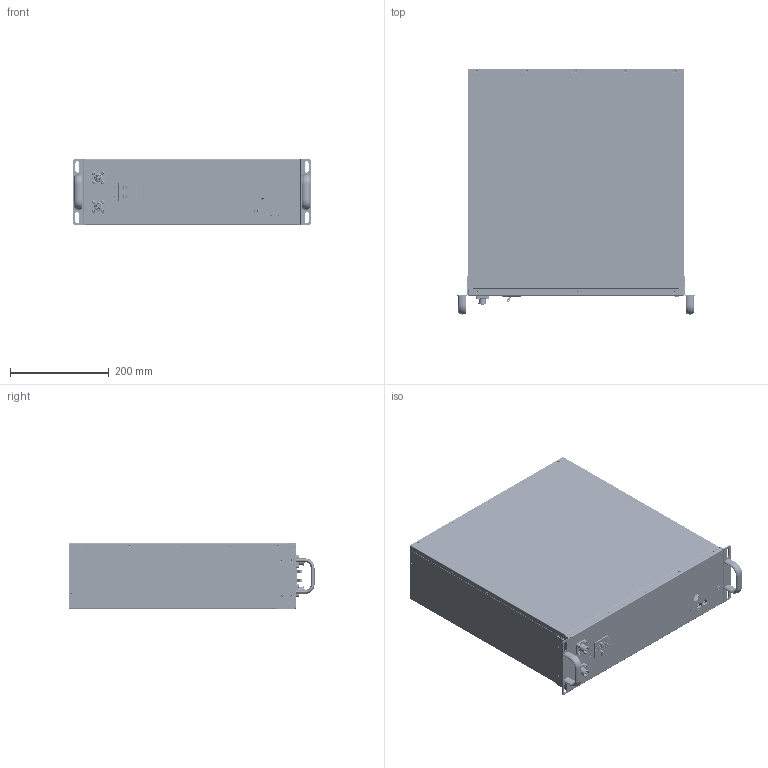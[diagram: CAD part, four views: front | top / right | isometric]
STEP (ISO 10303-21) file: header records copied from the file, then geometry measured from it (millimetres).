
FILE_DESCRIPTION((''),'2;1');
FILE_NAME('48-48-5120_ELEMENT_3U_BATTERY_N_ASM','2023-11-24T11:18:20',('Administrator'),(''),'CREO PARAMETRIC BY PTC INC, 2019224','CREO PARAMETRIC BY PTC INC, 2019224','');
FILE_SCHEMA(('AUTOMOTIVE_DESIGN { 1 0 10303 214 1 1 1 1 }'));
Products named in the file (73): XIANGTI_9_5; ZHIJIA-05_3_5; PEM_NUT_M4_1_5; ZHIJIA-01_ASM_3_ASM_5_ASM; ZHIJIA-06_3_5; ZHIJIA-02_ASM_3_ASM_5_ASM; DIBAN-01_4_5; PEM_NUT_M3_1_5; XIANGTI-00_ASM_8_ASM_5_ASM; MIANBAN_12_1_5; MIANBAN_12_2_5; MIANBAN_12_3_5; MIANBAN_12_4_5; MIANBAN_12_5_5; MIANBAN_12_6_5; MIANBAN_12_7_5; MIANBAN_12_8_5; MIANBAN_12_9_5; MIANBAN_12_10_5; MIANBAN_12_11_5; MIANBAN_12_12_5; MIANBAN_12_13_5; MIANBAN_12_14_5; MIANBAN_12_15_5; MIANBAN_12_16_5; MIANBAN_12_17_5; MIANBAN_12_ASM_5_ASM; ZHIJIA-07_7_5; MIANBAN-00_ASM_20_ASM_5_ASM; OPEN_CASCADE_STEP_TRANSLA-81901; OPEN_CASCADE_STEP_TRANSLA-95973; CON_USB_MINI_B_VERT_ASM_1_ASM_5_ASM; CN1_ASM_1_ASM_5_ASM; CON_RJ45_TH_TOP_ENTRY_NOSHIELD_; P4_ASM_1_ASM_5_ASM; P3_ASM_1_ASM_5_ASM; LIGHTPIPE-VLP-650-R_1_1_5; LIGHTPIPE-VLP-650-R_2_1_5; LIGHTPIPE-VLP-650-R_3_1_5; LIGHTPIPE-VLP-650-R_ASM_1_ASM_5_ASM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
Assembly tree (207 placements, depth 8):
  48-48-5120_ELEMENT_3U_BATTERY_N_ASM
    3U-JIXIANG_ASM_13_ASM
      3U-JIXIANG_ASM_28_ASM_6_ASM
        XIANGTI-00_ASM_8_ASM_5_ASM
          XIANGTI_9_5
          ZHIJIA-01_ASM_3_ASM_5_ASM
            ZHIJIA-05_3_5
            PEM_NUT_M4_1_5  x7
          ZHIJIA-02_ASM_3_ASM_5_ASM
            ZHIJIA-06_3_5
            PEM_NUT_M4_1_5  x7
          PEM_NUT_M4_1_5  x13
          DIBAN-01_4_5
          PEM_NUT_M3_1_5  x26
        MIANBAN-00_ASM_20_ASM_5_ASM
          MIANBAN_12_ASM_5_ASM
            MIANBAN_12_1_5
            MIANBAN_12_2_5
            MIANBAN_12_3_5
            MIANBAN_12_4_5
            MIANBAN_12_5_5
            MIANBAN_12_6_5
            MIANBAN_12_7_5
            MIANBAN_12_8_5
            MIANBAN_12_9_5
            MIANBAN_12_10_5
            MIANBAN_12_11_5
            MIANBAN_12_12_5
            MIANBAN_12_13_5
            MIANBAN_12_14_5
            MIANBAN_12_15_5
            MIANBAN_12_16_5
            MIANBAN_12_17_5
          PEM_NUT_M4_1_5  x10
          ZHIJIA-07_7_5
        100-0104_REV-C_-_GEN_4_ELEMENT__ASM
          PCB_ASM_2_ASM_5_ASM
            CN1_ASM_1_ASM_5_ASM
              CON_USB_MINI_B_VERT_ASM_1_ASM_5_ASM
                OPEN_CASCADE_STEP_TRANSLA-81901
                OPEN_CASCADE_STEP_TRANSLA-95973
            P4_ASM_1_ASM_5_ASM
              CON_RJ45_TH_TOP_ENTRY_NOSHIELD_
            P3_ASM_1_ASM_5_ASM
              CON_RJ45_TH_TOP_ENTRY_NOSHIELD_
            D42_ASM_1_ASM_5_ASM
              LIGHTPIPE-VLP-650-R_ASM_1_ASM_5_ASM
                LIGHTPIPE-VLP-650-R_1_1_5
                LIGHTPIPE-VLP-650-R_2_1_5
                LIGHTPIPE-VLP-650-R_3_1_5
              4361232048_ASM_1_ASM_5_ASM
                EXTRUDED-291139_1_5
              6058440928_ASM_1_ASM_5_ASM
                CYLINDER-291331_1_5
            SW1_ASM_1_ASM_5_ASM
              SW-PB_TH_6X6-43387_1_5
        GUAER02_3_5
        GAIBAN_9_5
        GUAER01_3_5
        PEM_NUT_M4_1_5  x7
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Bounding box: 482.6 x 497.27 x 133.5 mm (x, y, z)
Volume: 1032762.1 mm3; surface area: 1508301.4 mm2
Topology: 183 solids, 187 shells, 12654 faces, 34147 edges, 22087 vertices
Faces by surface type: plane 8247, cylinder 2668, cone 1369, torus 172, sphere 90, bspline 88, extrusion 12, revolution 8
Entity records: 160519 total; most frequent: CARTESIAN_POINT 44939, DIRECTION 17212, ORIENTED_EDGE 15512, PRESENTATION_STYLE_ASSIGNMENT 9499, STYLED_ITEM 8222, CURVE_STYLE 8043, EDGE_CURVE 7756, AXIS2_PLACEMENT_3D 6338
